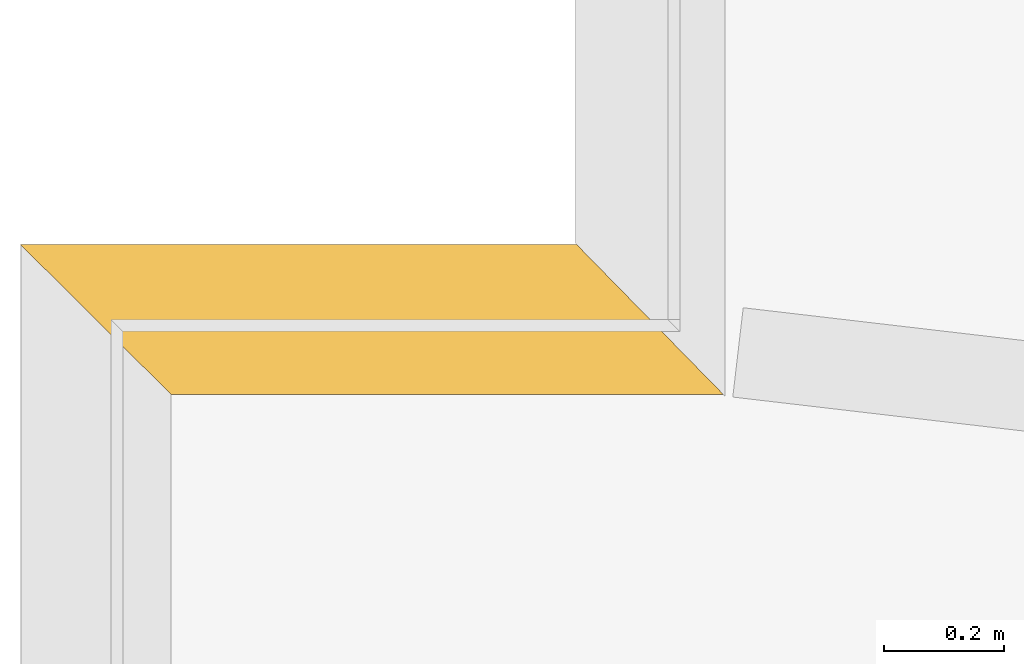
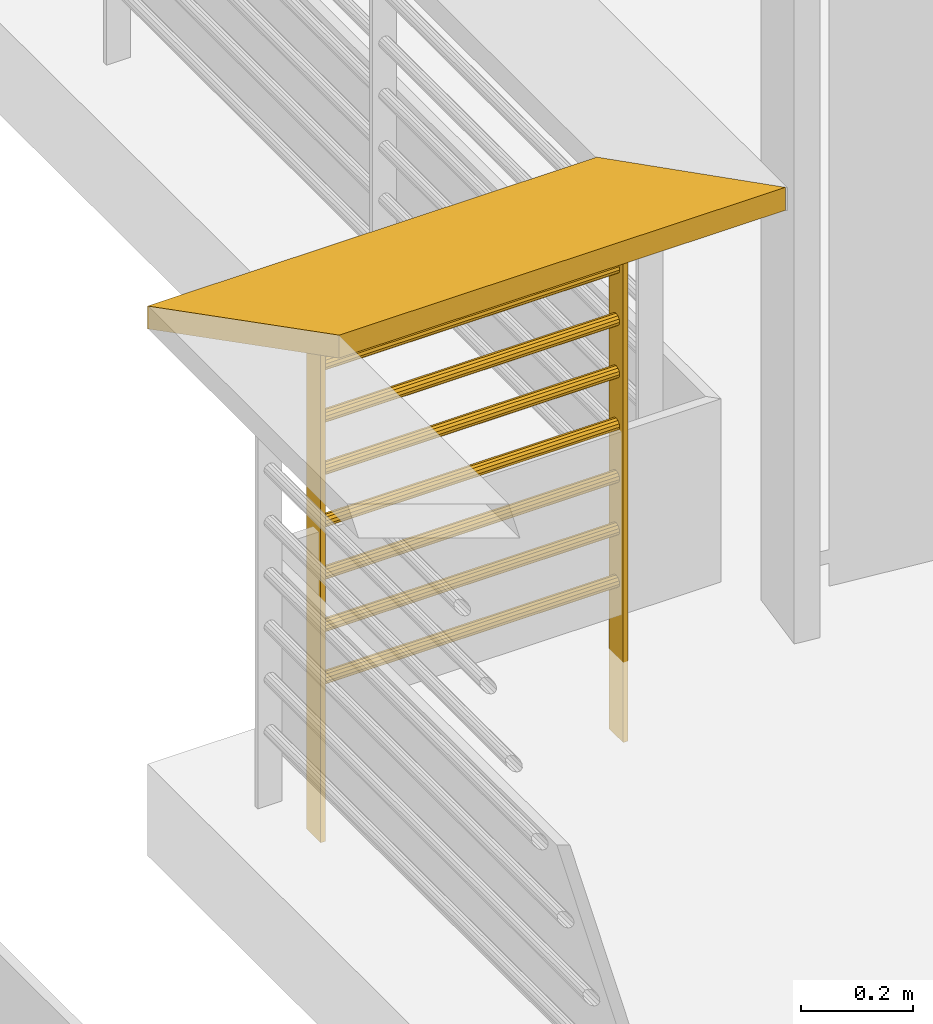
# One storey, part 98 of 164: 1 railing.
"""IFC2X3 building model written with IfcOpenShell, lengths in millimetres."""

from ifc_helpers import new_model, entity, si_unit, converted_unit, derived_unit, money_unit, direction, frame, origin_with_axes, place, context, subcontext, project, spatial, faceted_brep, source, transform, mapped, type_object, element, save


model = new_model("IFC2X3")

# Units and contexts
model_context = context("Model", 3, precision=0.01, world=origin_with_axes(), true_north=direction((0.0, 1.0)))
body_context = subcontext(model_context, "Body", "Model", "MODEL_VIEW")
ifc_project = project(units=[si_unit("LENGTHUNIT", "METRE", prefix="MILLI"), si_unit("AREAUNIT", "SQUARE_METRE"), si_unit("VOLUMEUNIT", "CUBIC_METRE"), converted_unit("PLANEANGLEUNIT", "DEGREE", entity("IfcPlaneAngleMeasure", 0.0174532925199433), si_unit("PLANEANGLEUNIT", "RADIAN"), dimensions=[0, 0, 0, 0, 0, 0, 0]), money_unit("USD"), converted_unit("TIMEUNIT", "Year", entity("IfcTimeMeasure", 31557600.0), si_unit("TIMEUNIT", "SECOND"), dimensions=[0, 0, 1, 0, 0, 0, 0]), si_unit("MASSUNIT", "GRAM", prefix="KILO"), si_unit("THERMODYNAMICTEMPERATUREUNIT", "DEGREE_CELSIUS"), si_unit("LUMINOUSINTENSITYUNIT", "LUMEN"), si_unit("ENERGYUNIT", "JOULE", prefix="MEGA"), derived_unit("THERMALCONDUCTANCEUNIT", [(si_unit("POWERUNIT", "WATT"), 1), (si_unit("LENGTHUNIT", "METRE"), -1), (si_unit("THERMODYNAMICTEMPERATUREUNIT", "KELVIN"), -1)]), derived_unit("SPECIFICHEATCAPACITYUNIT", [(si_unit("ENERGYUNIT", "JOULE"), 1), (si_unit("MASSUNIT", "GRAM", prefix="KILO"), -1), (si_unit("THERMODYNAMICTEMPERATUREUNIT", "KELVIN"), -1)]), derived_unit("MASSDENSITYUNIT", [(si_unit("MASSUNIT", "GRAM", prefix="KILO"), 1), (si_unit("VOLUMEUNIT", "CUBIC_METRE"), -1)])], contexts=[model_context])

# Site, building, storey
site_placement = place(None, origin_with_axes())
site = spatial("IfcSite", under=ifc_project, at=site_placement, Name="Site", CompositionType="ELEMENT")
building_placement = place(site_placement, origin_with_axes())
building = spatial("IfcBuilding", under=site, at=building_placement, Name="Bâtiment", CompositionType="ELEMENT")
storey_placement = place(building_placement, frame((0.0, 0.0, 5750.0), z_axis=(0.0, 0.0, 1.0), x_axis=(1.0, 0.0, 0.0)))
storey = spatial("IfcBuildingStorey", under=building, at=storey_placement, Name="Etage1", CompositionType="ELEMENT", Elevation=5750.0)

# Railing
railing_type = type_object("IfcRailingType", Name="Cadre avec câble 01 20", PredefinedType="NOTDEFINED")
shared_shape = source(origin_with_axes(), body_context, "Body", "Brep", [
    faceted_brep([(-1047.333254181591, 125.0, 950.0), (-802.6622982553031, -125.0, 950.0), (-802.6622982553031, -125.0, 1000.0), (-1047.333254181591, 125.0, 1000.0), (-125.6403834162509, 125.0, 950.0), (125.6403834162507, -125.0, 950.0), (125.6403834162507, -125.0, 1000.0), (-125.6403834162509, 125.0, 1000.0)], [[[0, 1, 2, 3]], [[1, 0, 4, 5]], [[1, 5, 6, 2]], [[3, 2, 6, 7]], [[0, 3, 7, 4]], [[4, 7, 6, 5]]]),
    faceted_brep([(-145.0, -25.0, -176.0), (-145.0, -25.0, 950.0), (-155.0, -25.0, 950.0), (-155.0, -25.0, -176.0), (-145.0, 25.0, -176.0), (-145.0, 25.0, 950.0), (-155.0, 25.0, 950.0), (-155.0, 25.0, -176.0)], [[[0, 1, 2, 3]], [[4, 5, 1, 0]], [[1, 5, 6, 2]], [[3, 2, 6, 7]], [[0, 3, 7, 4]], [[7, 6, 5, 4]]]),
    faceted_brep([(-769.9977762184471, -25.0, -176.0), (-769.9977762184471, -25.0, 950.0), (-779.9977762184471, -25.0, 950.0), (-779.9977762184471, -25.0, -176.0), (-769.9977762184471, 25.0, -176.0), (-769.9977762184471, 25.0, 950.0), (-779.9977762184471, 25.0, 950.0), (-779.9977762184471, 25.0, -176.0)], [[[0, 1, 2, 3]], [[4, 5, 1, 0]], [[1, 5, 6, 2]], [[3, 2, 6, 7]], [[0, 3, 7, 4]], [[7, 6, 5, 4]]]),
    faceted_brep([(-155.0, 10.82531754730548, 156.25), (-769.9977762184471, 10.82531754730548, 156.25), (-769.9977762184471, 12.5, 162.5), (-155.0, 12.5, 162.5), (-155.0, 6.249999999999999, 151.6746824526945), (-769.9977762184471, 6.249999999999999, 151.6746824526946), (-769.9977762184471, 0.0, 150.0000000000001), (-769.9977762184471, -6.250000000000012, 151.6746824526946), (-769.9977762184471, -10.82531754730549, 156.2500000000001), (-769.9977762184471, -12.5, 162.5000000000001), (-769.9977762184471, -10.82531754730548, 168.7500000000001), (-769.9977762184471, -6.249999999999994, 173.3253175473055), (-769.9977762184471, 0.0, 175.0000000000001), (-769.9977762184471, 6.250000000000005, 173.3253175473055), (-769.9977762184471, 10.82531754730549, 168.75), (-155.0, 10.82531754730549, 168.75), (-155.0, 6.250000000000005, 173.3253175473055), (-155.0, 0.0, 175.0), (-155.0, -6.249999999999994, 173.3253175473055), (-155.0, -10.82531754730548, 168.75), (-155.0, -12.5, 162.5), (-155.0, -10.82531754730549, 156.25), (-155.0, -6.250000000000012, 151.6746824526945), (-155.0, 0.0, 150.0)], [[[0, 1, 2, 3]], [[4, 5, 1, 0]], [[1, 5, 6, 7, 8, 9, 10, 11, 12, 13, 14, 2]], [[3, 2, 14, 15]], [[15, 16, 17, 18, 19, 20, 21, 22, 23, 4, 0, 3]], [[23, 6, 5, 4]], [[22, 7, 6, 23]], [[21, 8, 7, 22]], [[20, 9, 8, 21]], [[19, 10, 9, 20]], [[18, 11, 10, 19]], [[17, 12, 11, 18]], [[16, 13, 12, 17]], [[15, 14, 13, 16]]]),
    faceted_brep([(-155.0, 10.82531754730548, 270.5357142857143), (-769.9977762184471, 10.82531754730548, 270.5357142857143), (-769.9977762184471, 12.5, 276.7857142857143), (-155.0, 12.5, 276.7857142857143), (-155.0, 6.249999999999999, 265.9603967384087), (-769.9977762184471, 6.249999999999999, 265.9603967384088), (-769.9977762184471, 0.0, 264.2857142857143), (-769.9977762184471, -6.250000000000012, 265.9603967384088), (-769.9977762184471, -10.82531754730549, 270.5357142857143), (-769.9977762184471, -12.5, 276.7857142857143), (-769.9977762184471, -10.82531754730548, 283.0357142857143), (-769.9977762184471, -6.249999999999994, 287.6110318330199), (-769.9977762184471, 0.0, 289.2857142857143), (-769.9977762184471, 6.250000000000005, 287.6110318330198), (-769.9977762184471, 10.82531754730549, 283.0357142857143), (-155.0, 10.82531754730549, 283.0357142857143), (-155.0, 6.250000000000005, 287.6110318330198), (-155.0, 0.0, 289.2857142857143), (-155.0, -6.249999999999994, 287.6110318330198), (-155.0, -10.82531754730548, 283.0357142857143), (-155.0, -12.5, 276.7857142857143), (-155.0, -10.82531754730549, 270.5357142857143), (-155.0, -6.250000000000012, 265.9603967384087), (-155.0, 0.0, 264.2857142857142)], [[[0, 1, 2, 3]], [[4, 5, 1, 0]], [[1, 5, 6, 7, 8, 9, 10, 11, 12, 13, 14, 2]], [[3, 2, 14, 15]], [[15, 16, 17, 18, 19, 20, 21, 22, 23, 4, 0, 3]], [[23, 6, 5, 4]], [[22, 7, 6, 23]], [[21, 8, 7, 22]], [[20, 9, 8, 21]], [[19, 10, 9, 20]], [[18, 11, 10, 19]], [[17, 12, 11, 18]], [[16, 13, 12, 17]], [[15, 14, 13, 16]]]),
    faceted_brep([(-155.0, 10.82531754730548, 384.8214285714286), (-769.9977762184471, 10.82531754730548, 384.8214285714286), (-769.9977762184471, 12.5, 391.0714285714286), (-155.0, 12.5, 391.0714285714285), (-155.0, 6.249999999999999, 380.2461110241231), (-769.9977762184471, 6.249999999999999, 380.2461110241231), (-769.9977762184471, 0.0, 378.5714285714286), (-769.9977762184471, -6.250000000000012, 380.2461110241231), (-769.9977762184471, -10.82531754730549, 384.8214285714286), (-769.9977762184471, -12.5, 391.0714285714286), (-769.9977762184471, -10.82531754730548, 397.3214285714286), (-769.9977762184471, -6.249999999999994, 401.896746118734), (-769.9977762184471, 0.0, 403.5714285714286), (-769.9977762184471, 6.250000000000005, 401.896746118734), (-769.9977762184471, 10.82531754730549, 397.3214285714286), (-155.0, 10.82531754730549, 397.3214285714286), (-155.0, 6.250000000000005, 401.896746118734), (-155.0, 0.0, 403.5714285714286), (-155.0, -6.249999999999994, 401.896746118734), (-155.0, -10.82531754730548, 397.3214285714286), (-155.0, -12.5, 391.0714285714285), (-155.0, -10.82531754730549, 384.8214285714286), (-155.0, -6.250000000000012, 380.2461110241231), (-155.0, 0.0, 378.5714285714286)], [[[0, 1, 2, 3]], [[4, 5, 1, 0]], [[1, 5, 6, 7, 8, 9, 10, 11, 12, 13, 14, 2]], [[3, 2, 14, 15]], [[15, 16, 17, 18, 19, 20, 21, 22, 23, 4, 0, 3]], [[23, 6, 5, 4]], [[22, 7, 6, 23]], [[21, 8, 7, 22]], [[20, 9, 8, 21]], [[19, 10, 9, 20]], [[18, 11, 10, 19]], [[17, 12, 11, 18]], [[16, 13, 12, 17]], [[15, 14, 13, 16]]]),
    faceted_brep([(-155.0, 10.82531754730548, 499.1071428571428), (-769.9977762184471, 10.82531754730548, 499.1071428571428), (-769.9977762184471, 12.5, 505.3571428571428), (-155.0, 12.5, 505.3571428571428), (-155.0, 6.249999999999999, 494.5318253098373), (-769.9977762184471, 6.249999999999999, 494.5318253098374), (-769.9977762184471, 0.0, 492.8571428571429), (-769.9977762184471, -6.250000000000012, 494.5318253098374), (-769.9977762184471, -10.82531754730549, 499.1071428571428), (-769.9977762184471, -12.5, 505.3571428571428), (-769.9977762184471, -10.82531754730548, 511.6071428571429), (-769.9977762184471, -6.249999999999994, 516.1824604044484), (-769.9977762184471, 0.0, 517.8571428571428), (-769.9977762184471, 6.250000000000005, 516.1824604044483), (-769.9977762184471, 10.82531754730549, 511.6071428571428), (-155.0, 10.82531754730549, 511.6071428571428), (-155.0, 6.250000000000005, 516.1824604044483), (-155.0, 0.0, 517.8571428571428), (-155.0, -6.249999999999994, 516.1824604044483), (-155.0, -10.82531754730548, 511.6071428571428), (-155.0, -12.5, 505.3571428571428), (-155.0, -10.82531754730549, 499.1071428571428), (-155.0, -6.250000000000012, 494.5318253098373), (-155.0, 0.0, 492.8571428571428)], [[[0, 1, 2, 3]], [[4, 5, 1, 0]], [[1, 5, 6, 7, 8, 9, 10, 11, 12, 13, 14, 2]], [[3, 2, 14, 15]], [[15, 16, 17, 18, 19, 20, 21, 22, 23, 4, 0, 3]], [[23, 6, 5, 4]], [[22, 7, 6, 23]], [[21, 8, 7, 22]], [[20, 9, 8, 21]], [[19, 10, 9, 20]], [[18, 11, 10, 19]], [[17, 12, 11, 18]], [[16, 13, 12, 17]], [[15, 14, 13, 16]]]),
    faceted_brep([(-155.0, 10.82531754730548, 613.3928571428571), (-769.9977762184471, 10.82531754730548, 613.3928571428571), (-769.9977762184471, 12.5, 619.6428571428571), (-155.0, 12.5, 619.642857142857), (-155.0, 6.249999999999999, 608.8175395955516), (-769.9977762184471, 6.249999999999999, 608.8175395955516), (-769.9977762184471, 0.0, 607.1428571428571), (-769.9977762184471, -6.250000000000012, 608.8175395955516), (-769.9977762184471, -10.82531754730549, 613.3928571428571), (-769.9977762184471, -12.5, 619.6428571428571), (-769.9977762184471, -10.82531754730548, 625.8928571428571), (-769.9977762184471, -6.249999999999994, 630.4681746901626), (-769.9977762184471, 0.0, 632.1428571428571), (-769.9977762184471, 6.250000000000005, 630.4681746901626), (-769.9977762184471, 10.82531754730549, 625.8928571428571), (-155.0, 10.82531754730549, 625.892857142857), (-155.0, 6.250000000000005, 630.4681746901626), (-155.0, 0.0, 632.1428571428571), (-155.0, -6.249999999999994, 630.4681746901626), (-155.0, -10.82531754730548, 625.892857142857), (-155.0, -12.5, 619.642857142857), (-155.0, -10.82531754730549, 613.3928571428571), (-155.0, -6.250000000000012, 608.8175395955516), (-155.0, 0.0, 607.1428571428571)], [[[0, 1, 2, 3]], [[4, 5, 1, 0]], [[1, 5, 6, 7, 8, 9, 10, 11, 12, 13, 14, 2]], [[3, 2, 14, 15]], [[15, 16, 17, 18, 19, 20, 21, 22, 23, 4, 0, 3]], [[23, 6, 5, 4]], [[22, 7, 6, 23]], [[21, 8, 7, 22]], [[20, 9, 8, 21]], [[19, 10, 9, 20]], [[18, 11, 10, 19]], [[17, 12, 11, 18]], [[16, 13, 12, 17]], [[15, 14, 13, 16]]]),
    faceted_brep([(-155.0, 10.82531754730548, 727.6785714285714), (-769.9977762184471, 10.82531754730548, 727.6785714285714), (-769.9977762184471, 12.5, 733.9285714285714), (-155.0, 12.5, 733.9285714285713), (-155.0, 6.249999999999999, 723.1032538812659), (-769.9977762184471, 6.249999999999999, 723.1032538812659), (-769.9977762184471, 0.0, 721.4285714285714), (-769.9977762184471, -6.250000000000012, 723.1032538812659), (-769.9977762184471, -10.82531754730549, 727.6785714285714), (-769.9977762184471, -12.5, 733.9285714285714), (-769.9977762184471, -10.82531754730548, 740.1785714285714), (-769.9977762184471, -6.249999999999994, 744.7538889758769), (-769.9977762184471, 0.0, 746.4285714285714), (-769.9977762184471, 6.250000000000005, 744.7538889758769), (-769.9977762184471, 10.82531754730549, 740.1785714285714), (-155.0, 10.82531754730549, 740.1785714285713), (-155.0, 6.250000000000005, 744.7538889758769), (-155.0, 0.0, 746.4285714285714), (-155.0, -6.249999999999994, 744.7538889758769), (-155.0, -10.82531754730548, 740.1785714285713), (-155.0, -12.5, 733.9285714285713), (-155.0, -10.82531754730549, 727.6785714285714), (-155.0, -6.250000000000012, 723.1032538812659), (-155.0, 0.0, 721.4285714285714)], [[[0, 1, 2, 3]], [[4, 5, 1, 0]], [[1, 5, 6, 7, 8, 9, 10, 11, 12, 13, 14, 2]], [[3, 2, 14, 15]], [[15, 16, 17, 18, 19, 20, 21, 22, 23, 4, 0, 3]], [[23, 6, 5, 4]], [[22, 7, 6, 23]], [[21, 8, 7, 22]], [[20, 9, 8, 21]], [[19, 10, 9, 20]], [[18, 11, 10, 19]], [[17, 12, 11, 18]], [[16, 13, 12, 17]], [[15, 14, 13, 16]]]),
    faceted_brep([(-155.0, 10.82531754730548, 841.9642857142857), (-769.9977762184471, 10.82531754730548, 841.9642857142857), (-769.9977762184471, 12.5, 848.2142857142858), (-155.0, 12.5, 848.2142857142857), (-155.0, 6.249999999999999, 837.3889681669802), (-769.9977762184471, 6.249999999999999, 837.3889681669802), (-769.9977762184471, 0.0, 835.7142857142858), (-769.9977762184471, -6.250000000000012, 837.3889681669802), (-769.9977762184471, -10.82531754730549, 841.9642857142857), (-769.9977762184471, -12.5, 848.2142857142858), (-769.9977762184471, -10.82531754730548, 854.4642857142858), (-769.9977762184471, -6.249999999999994, 859.0396032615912), (-769.9977762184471, 0.0, 860.7142857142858), (-769.9977762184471, 6.250000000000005, 859.0396032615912), (-769.9977762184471, 10.82531754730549, 854.4642857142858), (-155.0, 10.82531754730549, 854.4642857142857), (-155.0, 6.250000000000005, 859.0396032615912), (-155.0, 0.0, 860.7142857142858), (-155.0, -6.249999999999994, 859.0396032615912), (-155.0, -10.82531754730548, 854.4642857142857), (-155.0, -12.5, 848.2142857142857), (-155.0, -10.82531754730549, 841.9642857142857), (-155.0, -6.250000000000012, 837.3889681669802), (-155.0, 0.0, 835.7142857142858)], [[[0, 1, 2, 3]], [[4, 5, 1, 0]], [[1, 5, 6, 7, 8, 9, 10, 11, 12, 13, 14, 2]], [[3, 2, 14, 15]], [[15, 16, 17, 18, 19, 20, 21, 22, 23, 4, 0, 3]], [[23, 6, 5, 4]], [[22, 7, 6, 23]], [[21, 8, 7, 22]], [[20, 9, 8, 21]], [[19, 10, 9, 20]], [[18, 11, 10, 19]], [[17, 12, 11, 18]], [[16, 13, 12, 17]], [[15, 14, 13, 16]]]),
])
railing_placement = place(storey_placement, frame((2215834.235568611, -620663.1638199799, 0.0), z_axis=(0.0, 0.0, 1.0), x_axis=(-1.0, 0.0, 0.0)))
element("IfcRailing", 1, at=railing_placement, inside=storey, type_object=railing_type, Name="Obj.-002", PredefinedType="NOTDEFINED", context=body_context, shape_type="MappedRepresentation", body=[
    mapped(shared_shape, transform((0.0, 0.0, 0.0))),
])

save(model, "model.ifc")
